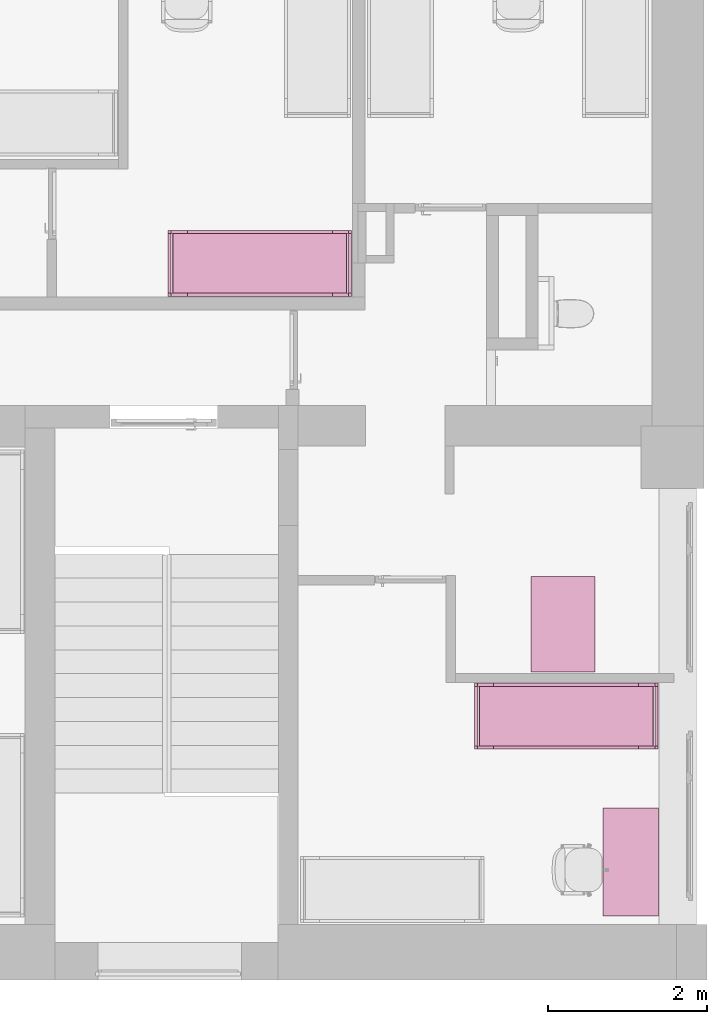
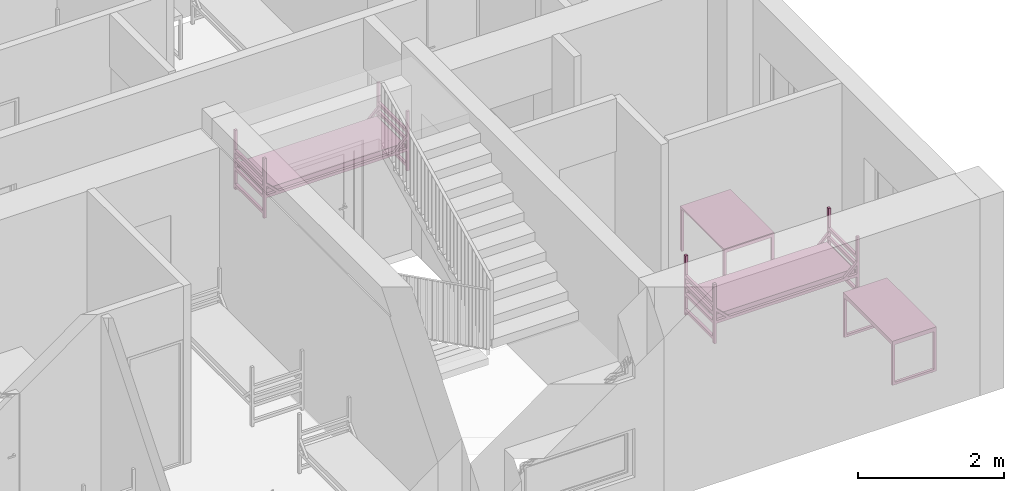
# One storey, part 45 of 48: 4 furnishings.
"""IFC2X3 building model written with IfcOpenShell, lengths in millimetres."""

from ifc_helpers import new_model, entity, si_unit, converted_unit, derived_unit, direction, frame, frame_2d, origin, origin_2d_with_axis, place, context, subcontext, project, spatial, polyline, circle_curve, parameter, trimmed, segment, composite_curve, rectangle, circle, outline, extrude, faceted_brep, source, transform, mapped, material, material_list, type_object, type_shapes, element, save


model = new_model("IFC2X3")

# Units and contexts
model_context = context("Model", 3, precision=0.01, world=origin(), true_north=direction((6.12303176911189e-17, 1.0)))
body_context = subcontext(model_context, "Body", "Model", "MODEL_VIEW")
ifc_project = project(units=[si_unit("LENGTHUNIT", "METRE", prefix="MILLI"), si_unit("AREAUNIT", "SQUARE_METRE"), si_unit("VOLUMEUNIT", "CUBIC_METRE"), converted_unit("PLANEANGLEUNIT", "DEGREE", entity("IfcRatioMeasure", 0.0174532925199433), si_unit("PLANEANGLEUNIT", "RADIAN"), dimensions=[0, 0, 0, 0, 0, 0, 0]), si_unit("MASSUNIT", "GRAM", prefix="KILO"), derived_unit("MASSDENSITYUNIT", [(si_unit("MASSUNIT", "GRAM", prefix="KILO"), 1), (si_unit("LENGTHUNIT", "METRE"), -3)]), si_unit("TIMEUNIT", "SECOND"), si_unit("FREQUENCYUNIT", "HERTZ"), si_unit("THERMODYNAMICTEMPERATUREUNIT", "DEGREE_CELSIUS"), derived_unit("THERMALTRANSMITTANCEUNIT", [(si_unit("MASSUNIT", "GRAM", prefix="KILO"), 1), (si_unit("THERMODYNAMICTEMPERATUREUNIT", "KELVIN"), -1), (si_unit("TIMEUNIT", "SECOND"), -3)]), derived_unit("VOLUMETRICFLOWRATEUNIT", [(si_unit("LENGTHUNIT", "METRE"), 3), (si_unit("TIMEUNIT", "SECOND"), -1)]), si_unit("ELECTRICCURRENTUNIT", "AMPERE"), si_unit("ELECTRICVOLTAGEUNIT", "VOLT"), si_unit("POWERUNIT", "WATT"), si_unit("FORCEUNIT", "NEWTON", prefix="KILO"), si_unit("ILLUMINANCEUNIT", "LUX"), si_unit("LUMINOUSFLUXUNIT", "LUMEN"), si_unit("LUMINOUSINTENSITYUNIT", "CANDELA"), derived_unit("USERDEFINED", [(si_unit("MASSUNIT", "GRAM", prefix="KILO"), -1), (si_unit("LENGTHUNIT", "METRE"), -2), (si_unit("TIMEUNIT", "SECOND"), 3), (si_unit("LUMINOUSFLUXUNIT", "LUMEN"), 1)]), derived_unit("LINEARVELOCITYUNIT", [(si_unit("LENGTHUNIT", "METRE"), 1), (si_unit("TIMEUNIT", "SECOND"), -1)]), si_unit("PRESSUREUNIT", "PASCAL"), derived_unit("USERDEFINED", [(si_unit("LENGTHUNIT", "METRE"), -2), (si_unit("MASSUNIT", "GRAM", prefix="KILO"), 1), (si_unit("TIMEUNIT", "SECOND"), -2)]), derived_unit("LINEARFORCEUNIT", [(si_unit("MASSUNIT", "GRAM", prefix="KILO"), 1), (si_unit("LENGTHUNIT", "METRE"), 1), (si_unit("TIMEUNIT", "SECOND"), -2), (si_unit("LENGTHUNIT", "METRE"), -1)]), derived_unit("PLANARFORCEUNIT", [(si_unit("MASSUNIT", "GRAM", prefix="KILO"), 1), (si_unit("LENGTHUNIT", "METRE"), 1), (si_unit("TIMEUNIT", "SECOND"), -2), (si_unit("LENGTHUNIT", "METRE"), -2)])], contexts=[model_context])

# Site, building, storey, space
site_placement = place(None, origin())
site = spatial("IfcSite", under=ifc_project, at=site_placement, Name="Default", CompositionType="ELEMENT")
building_placement = place(site_placement, origin())
building = spatial("IfcBuilding", under=site, at=building_placement, Name="SMA ARH", CompositionType="ELEMENT")
storey_placement = place(building_placement, frame((0.0, 0.0, 3300.0)))
storey = spatial("IfcBuildingStorey", under=building, at=storey_placement, Name="2 Korrus", CompositionType="ELEMENT", Elevation=3299.99999999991)
space_1_placement = place(storey_placement, origin())
space_1 = spatial("IfcSpace", under=storey, at=space_1_placement, Name="2-31", CompositionType="ELEMENT", InteriorOrExteriorSpace="INTERNAL")

# Furnishing
ifc_material_1 = material(Name="Madrats")
furniture_type_1 = type_object("IfcFurnitureType", Name="Kasarmu voodi ühekordne 2308x830:Kasarmu voodi ühekordne 2308x830", material=ifc_material_1)
shared_shape_1 = source(origin(), body_context, "Body", "SweptSolid", [
    extrude(rectangle(XDim=39.9999999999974, YDim=750.000000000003, at=frame_2d((-1.35003119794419e-13, -2.8421709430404e-14), x_axis=(1.0, 0.0))), frame((1.68638457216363, -1226.7969571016, 55.0), z_axis=(0.0, 0.0, 1.0), x_axis=(0.0, -1.0, 0.0)), (0.0, 0.0, 1.0), 49.9999999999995),
    extrude(rectangle(XDim=39.9999999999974, YDim=750.000000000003, at=frame_2d((-1.35003119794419e-13, -2.8421709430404e-14), x_axis=(1.0, 0.0))), frame((1.68638457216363, -1226.7969571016, 325.0), z_axis=(0.0, 0.0, 1.0), x_axis=(0.0, -1.0, 0.0)), (0.0, 0.0, 1.0), 49.9999999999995),
    extrude(rectangle(XDim=39.9999999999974, YDim=750.000000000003, at=frame_2d((-1.35003119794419e-13, -2.8421709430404e-14), x_axis=(1.0, 0.0))), frame((1.68638457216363, -1226.7969571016, 475.0), z_axis=(0.0, 0.0, 1.0), x_axis=(0.0, -1.0, 0.0)), (0.0, 0.0, 1.0), 49.9999999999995),
    extrude(rectangle(XDim=39.9999999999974, YDim=750.000000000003, at=frame_2d((-1.35003119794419e-13, -2.8421709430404e-14), x_axis=(1.0, 0.0))), frame((1.68638457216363, -1226.7969571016, 625.0), z_axis=(0.0, 0.0, 1.0), x_axis=(0.0, -1.0, 0.0)), (0.0, 0.0, 1.0), 50.0000000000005),
    extrude(rectangle(XDim=39.9999999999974, YDim=750.000000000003, at=frame_2d((1.35003119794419e-13, -2.8421709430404e-14), x_axis=(1.0, 0.0))), frame((1.68638457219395, 1041.2030428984, 55.0), z_axis=(0.0, 0.0, 1.0), x_axis=(0.0, -1.0, 0.0)), (0.0, 0.0, 1.0), 50.0000000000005),
    extrude(rectangle(XDim=39.9999999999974, YDim=750.000000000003, at=frame_2d((1.35003119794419e-13, -2.8421709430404e-14), x_axis=(1.0, 0.0))), frame((1.68638457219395, 1041.2030428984, 325.0), z_axis=(0.0, 0.0, 1.0), x_axis=(0.0, -1.0, 0.0)), (0.0, 0.0, 1.0), 50.0000000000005),
    extrude(rectangle(XDim=39.9999999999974, YDim=750.000000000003, at=frame_2d((1.35003119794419e-13, -2.8421709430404e-14), x_axis=(1.0, 0.0))), frame((1.68638457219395, 1041.2030428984, 475.0), z_axis=(0.0, 0.0, 1.0), x_axis=(0.0, -1.0, 0.0)), (0.0, 0.0, 1.0), 50.0000000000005),
    extrude(rectangle(XDim=39.9999999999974, YDim=750.000000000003, at=frame_2d((1.35003119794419e-13, -2.8421709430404e-14), x_axis=(1.0, 0.0))), frame((1.68638457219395, 1041.2030428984, 625.0), z_axis=(0.0, 0.0, 1.0), x_axis=(0.0, -1.0, 0.0)), (0.0, 0.0, 1.0), 49.9999999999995),
    extrude(outline(composite_curve([segment(trimmed(circle_curve(frame_2d((1085.0, -40.0), x_axis=(1.0, 0.0)), 10.0), [parameter(270.0)], [parameter(0.0)], True, "PARAMETER"), True, "CONTINUOUS"), segment(polyline([(1095.0, -40.0), (1095.0, 40.0)]), True, "CONTINUOUS"), segment(trimmed(circle_curve(frame_2d((1085.0, 40.0), x_axis=(1.0, 0.0)), 10.0), [parameter(0.0)], [parameter(90.0000000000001)], True, "PARAMETER"), True, "CONTINUOUS"), segment(polyline([(1085.0, 50.0), (-1085.0, 50.0)]), True, "CONTINUOUS"), segment(trimmed(circle_curve(frame_2d((-1085.0, 40.0), x_axis=(1.0, 0.0)), 10.0), [parameter(90.0000000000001)], [parameter(180.0)], True, "PARAMETER"), True, "CONTINUOUS"), segment(polyline([(-1095.0, 40.0), (-1095.0, -40.0)]), True, "CONTINUOUS"), segment(trimmed(circle_curve(frame_2d((-1085.0, -40.0), x_axis=(1.0, 0.0)), 10.0), [parameter(180.0)], [parameter(270.0)], True, "PARAMETER"), True, "CONTINUOUS"), segment(polyline([(-1085.0, -50.0), (1085.0, -50.0)]), True, "CONTINUOUS")], self_intersect=False)), frame((-373.313615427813, -92.7969571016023, 405.0), z_axis=(1.0, 0.0, 0.0), x_axis=(0.0, -1.0, 0.0)), (0.0, 0.0, 1.0), 750.000000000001),
    extrude(outline(polyline([(-1114.0, -100.0), (1114.0, -100.0), (1114.0, -50.0), (961.59199141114, -50.0), (1114.0, 100.0), (1114.0, 150.0), (910.789321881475, -50.0), (-910.789321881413, -50.0), (-1114.0, 150.0), (-1114.0, 100.0), (-961.591991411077, -50.0), (-1114.0, -50.0), (-1114.0, -100.0)])), frame((-413.313615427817, -92.7969571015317, 430.0), z_axis=(1.0, 0.0, 0.0), x_axis=(0.0, 1.0, 0.0)), (0.0, 0.0, 1.0), 39.9999999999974),
    extrude(outline(polyline([(-1114.0, -100.0), (1114.0, -100.0), (1114.0, -50.0), (961.591991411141, -50.0), (1114.0, 100.0), (1114.0, 150.0), (910.789321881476, -50.0), (-910.789321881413, -50.0), (-1114.0, 150.0), (-1114.0, 100.0), (-961.591991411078, -50.0), (-1114.0, -50.0), (-1114.0, -100.0)])), frame((376.686384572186, -92.796957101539, 430.0), z_axis=(1.0, 0.0, 0.0), x_axis=(0.0, 1.0, 0.0)), (0.0, 0.0, 1.0), 39.9999999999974),
    extrude(rectangle(XDim=39.9999999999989, YDim=39.9999999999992, at=frame_2d((-6.75015598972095e-14, 0.0), x_axis=(1.0, 0.0))), frame((396.686384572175, -1226.79695710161, 0.0), z_axis=(0.0, 0.0, 1.0), x_axis=(0.0, 1.0, 0.0)), (0.0, 0.0, 1.0), 995.0),
    extrude(rectangle(XDim=39.9999999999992, YDim=39.9999999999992, at=frame_2d((-1.35003119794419e-13, 0.0), x_axis=(1.0, 0.0))), frame((396.686384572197, 1041.20304289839, 0.0), z_axis=(0.0, 0.0, 1.0), x_axis=(0.0, 1.0, 0.0)), (0.0, 0.0, 1.0), 995.0),
    extrude(rectangle(XDim=40.0000000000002, YDim=39.9999999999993, at=frame_2d((-1.35003119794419e-13, 0.0), x_axis=(1.0, 0.0))), frame((-393.313615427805, 1041.2030428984, 0.0), z_axis=(0.0, 0.0, 1.0), x_axis=(0.0, 1.0, 0.0)), (0.0, 0.0, 1.0), 995.0),
    extrude(rectangle(XDim=39.9999999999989, YDim=39.9999999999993, at=frame_2d((-6.75015598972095e-14, 0.0), x_axis=(1.0, 0.0))), frame((-393.313615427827, -1226.7969571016, 0.0), z_axis=(0.0, 0.0, 1.0), x_axis=(0.0, 1.0, 0.0)), (0.0, 0.0, 1.0), 995.0),
])
type_shapes(furniture_type_1, [shared_shape_1])
furnishing_1_placement = place(space_1_placement, frame((33290.0, 8305.5014052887, 0.0), z_axis=(0.0, 0.0, 1.0), x_axis=(0.0, 1.0, 0.0)))
element("IfcFurnishingElement", 1, at=furnishing_1_placement, inside=space_1, type_object=furniture_type_1, material=ifc_material_1, Name="Kasarmu voodi ühekordne 2308x830:Kasarmu voodi ühekordne 2308x830", ObjectType="Kasarmu voodi ühekordne 2308x830:Kasarmu voodi ühekordne 2308x830", context=body_context, shape_type="MappedRepresentation", body=[
    mapped(shared_shape_1, transform((0.0, 0.0, 0.0), scale=1.0)),
])

# Space
space_2_placement = place(storey_placement, origin())
space_2 = spatial("IfcSpace", under=storey, at=space_2_placement, Name="2-1", CompositionType="ELEMENT", InteriorOrExteriorSpace="INTERNAL")

# Furnishings
furnishing_2_placement = place(space_2_placement, frame((37140.0, 2614.0, 0.0), z_axis=(0.0, 0.0, 1.0), x_axis=(0.0, 1.0, 0.0)))
element("IfcFurnishingElement", 2, at=furnishing_2_placement, inside=space_2, type_object=furniture_type_1, material=ifc_material_1, Name="Kasarmu voodi ühekordne 2308x830:Kasarmu voodi ühekordne 2308x830", ObjectType="Kasarmu voodi ühekordne 2308x830:Kasarmu voodi ühekordne 2308x830", context=body_context, shape_type="MappedRepresentation", body=[
    mapped(shared_shape_1, transform((0.0, 0.0, 0.0), scale=1.0)),
])
ifc_material_2 = material(Name="<Unnamed>")
ifc_material_list_1 = material_list([ifc_material_2, ifc_material_2])
furniture_type_2 = type_object("IfcFurnitureType", Name="kirjutuslaud 1360x700mm:kirjutuslaud 1360x700mm", material=ifc_material_list_1)
shared_shape_2 = source(origin(), body_context, "Body", "Brep", [
    faceted_brep([(680.0, -350.0, 720.0), (680.0, 350.0, 720.0), (680.0, 350.0, 750.0), (680.0, -350.0, 750.0), (-680.0, -350.0, 720.0), (-680.0, -350.0, 750.0), (-680.0, 350.0, 750.0), (-680.0, 350.0, 720.0)], [[[0, 1, 2, 3]], [[4, 5, 6, 7]], [[1, 0, 4, 7]], [[2, 1, 7, 6]], [[3, 2, 6, 5]], [[0, 3, 5, 4]]]),
    faceted_brep([(-640.0, -310.0, 680.0), (-640.0, 310.0, 680.0), (-640.0, 310.0, 720.0), (-640.0, -310.0, 720.0), (-680.0, -350.0, 720.0), (-680.0, 350.0, 720.0), (-680.0, 350.0, 10.0), (-680.0, -350.0, 10.0), (-680.0, 310.0, 680.0), (-680.0, -310.0, 680.0), (-680.0, -310.0, 50.0), (-680.0, 310.0, 50.0), (-640.0, -350.0, 10.0), (-640.0, -350.0, 680.0), (640.0, -350.0, 680.0), (640.0, -350.0, 10.0), (680.0, -350.0, 10.0), (680.0, -350.0, 720.0), (-640.0, 350.0, 10.0), (680.0, 350.0, 720.0), (680.0, 350.0, 10.0), (640.0, 350.0, 10.0), (640.0, 350.0, 680.0), (-640.0, 350.0, 680.0), (640.0, 310.0, 720.0), (640.0, -310.0, 720.0), (-640.0, 310.0, 50.0), (-640.0, -310.0, 50.0), (640.0, -310.0, 680.0), (640.0, 310.0, 680.0), (680.0, 310.0, 680.0), (680.0, 310.0, 50.0), (680.0, -310.0, 50.0), (680.0, -310.0, 680.0), (640.0, -310.0, 50.0), (640.0, 310.0, 50.0)], [[[0, 1, 2, 3]], [[4, 5, 6, 7], [8, 9, 10, 11]], [[4, 7, 12, 13, 14, 15, 16, 17]], [[18, 12, 7, 6]], [[6, 5, 19, 20, 21, 22, 23, 18]], [[19, 5, 4, 17], [2, 24, 25, 3]], [[26, 1, 8, 11]], [[27, 26, 11, 10]], [[0, 27, 10, 9]], [[1, 0, 9, 8]], [[14, 13, 0, 28]], [[24, 2, 1, 29]], [[3, 25, 28, 0]], [[17, 16, 20, 19], [30, 31, 32, 33]], [[21, 15, 14, 28, 34, 35, 29, 22]], [[20, 16, 15, 21]], [[31, 30, 29, 35]], [[32, 31, 35, 34]], [[33, 32, 34, 28]], [[30, 33, 28, 29]], [[29, 28, 25, 24]], [[29, 1, 23, 22]], [[12, 18, 23, 1, 26, 27, 0, 13]]]),
    faceted_brep([(-663.729456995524, -270.466136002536, 0.0), (-659.847171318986, -269.955023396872, 0.0), (-655.964885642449, -270.466136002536, 0.0), (-652.347171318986, -271.964642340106, 0.0), (-649.240569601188, -274.348421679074, 0.0), (-646.85679026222, -277.455023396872, 0.0), (-645.35828392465, -281.072737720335, 0.0), (-644.847171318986, -284.955023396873, 0.0), (-645.35828392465, -288.83730907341, 0.0), (-646.85679026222, -292.455023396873, 0.0), (-649.240569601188, -295.561625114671, 0.0), (-652.347171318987, -297.945404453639, 0.0), (-655.964885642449, -299.443910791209, 0.0), (-659.847171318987, -299.955023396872, 0.0), (-663.729456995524, -299.443910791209, 0.0), (-667.347171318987, -297.945404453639, 0.0), (-670.453773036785, -295.561625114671, 0.0), (-672.837552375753, -292.455023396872, 0.0), (-674.336058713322, -288.83730907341, 0.0), (-674.847171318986, -284.955023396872, 0.0), (-674.336058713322, -281.072737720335, 0.0), (-672.837552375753, -277.455023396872, 0.0), (-670.453773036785, -274.348421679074, 0.0), (-667.347171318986, -271.964642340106, 0.0), (-655.964885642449, -299.443910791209, 10.0), (-652.347171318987, -297.945404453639, 10.0), (-649.240569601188, -295.561625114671, 10.0), (-646.85679026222, -292.455023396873, 10.0), (-645.35828392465, -288.83730907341, 10.0), (-644.847171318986, -284.955023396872, 10.0), (-645.35828392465, -281.072737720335, 10.0), (-646.85679026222, -277.455023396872, 10.0), (-649.240569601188, -274.348421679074, 10.0), (-652.347171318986, -271.964642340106, 10.0), (-655.964885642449, -270.466136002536, 10.0), (-659.847171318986, -269.955023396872, 10.0), (-663.729456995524, -270.466136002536, 10.0), (-667.347171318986, -271.964642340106, 10.0), (-670.453773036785, -274.348421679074, 10.0), (-672.837552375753, -277.455023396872, 10.0), (-674.336058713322, -281.072737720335, 10.0), (-674.847171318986, -284.955023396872, 10.0), (-674.336058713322, -288.83730907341, 10.0), (-672.837552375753, -292.455023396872, 10.0), (-670.453773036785, -295.561625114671, 10.0), (-667.347171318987, -297.945404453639, 10.0), (-663.729456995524, -299.443910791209, 10.0), (-659.847171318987, -299.955023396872, 10.0)], [[[0, 1, 2, 3, 4, 5, 6, 7, 8, 9, 10, 11, 12, 13, 14, 15, 16, 17, 18, 19, 20, 21, 22, 23]], [[24, 25, 26, 27, 28, 29, 30, 31, 32, 33, 34, 35, 36, 37, 38, 39, 40, 41, 42, 43, 44, 45, 46, 47]], [[18, 42, 41, 19]], [[17, 43, 42, 18]], [[45, 44, 16, 15]], [[17, 16, 44, 43]], [[46, 45, 15, 14]], [[47, 46, 14, 13]], [[12, 24, 47, 13]], [[11, 25, 24, 12]], [[27, 26, 10, 9]], [[11, 10, 26, 25]], [[28, 27, 9, 8]], [[29, 28, 8, 7]], [[6, 30, 29, 7]], [[5, 31, 30, 6]], [[33, 32, 4, 3]], [[5, 4, 32, 31]], [[34, 33, 3, 2]], [[35, 34, 2, 1]], [[0, 36, 35, 1]], [[23, 37, 36, 0]], [[39, 38, 22, 21]], [[23, 22, 38, 37]], [[40, 39, 21, 20]], [[41, 40, 20, 19]]]),
    faceted_brep([(-655.964885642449, 270.466136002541, 10.0), (-652.347171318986, 271.964642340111, 10.0), (-649.240569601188, 274.348421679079, 10.0), (-646.85679026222, 277.455023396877, 10.0), (-645.35828392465, 281.07273772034, 10.0), (-644.847171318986, 284.955023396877, 10.0), (-645.35828392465, 288.837309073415, 10.0), (-646.85679026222, 292.455023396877, 10.0), (-649.240569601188, 295.561625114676, 10.0), (-652.347171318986, 297.945404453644, 10.0), (-655.964885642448, 299.443910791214, 10.0), (-659.847171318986, 299.955023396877, 10.0), (-663.729456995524, 299.443910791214, 10.0), (-667.347171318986, 297.945404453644, 10.0), (-670.453773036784, 295.561625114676, 10.0), (-672.837552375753, 292.455023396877, 10.0), (-674.336058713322, 288.837309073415, 10.0), (-674.847171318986, 284.955023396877, 10.0), (-674.336058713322, 281.07273772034, 10.0), (-672.837552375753, 277.455023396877, 10.0), (-670.453773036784, 274.348421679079, 10.0), (-667.347171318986, 271.964642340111, 10.0), (-663.729456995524, 270.466136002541, 10.0), (-659.847171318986, 269.955023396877, 10.0), (-655.964885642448, 299.443910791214, 0.0), (-652.347171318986, 297.945404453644, 0.0), (-649.240569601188, 295.561625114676, 0.0), (-646.85679026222, 292.455023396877, 0.0), (-645.35828392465, 288.837309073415, 0.0), (-644.847171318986, 284.955023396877, 0.0), (-645.35828392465, 281.07273772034, 0.0), (-646.85679026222, 277.455023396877, 0.0), (-649.240569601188, 274.348421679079, 0.0), (-652.347171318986, 271.964642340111, 0.0), (-655.964885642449, 270.466136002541, 0.0), (-659.847171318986, 269.955023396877, 0.0), (-663.729456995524, 270.466136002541, 0.0), (-667.347171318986, 271.964642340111, 0.0), (-670.453773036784, 274.348421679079, 0.0), (-672.837552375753, 277.455023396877, 0.0), (-674.336058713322, 281.07273772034, 0.0), (-674.847171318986, 284.955023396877, 0.0), (-674.336058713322, 288.837309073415, 0.0), (-672.837552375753, 292.455023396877, 0.0), (-670.453773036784, 295.561625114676, 0.0), (-667.347171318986, 297.945404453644, 0.0), (-663.729456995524, 299.443910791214, 0.0), (-659.847171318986, 299.955023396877, 0.0)], [[[0, 1, 2, 3, 4, 5, 6, 7, 8, 9, 10, 11, 12, 13, 14, 15, 16, 17, 18, 19, 20, 21, 22, 23]], [[24, 25, 26, 27, 28, 29, 30, 31, 32, 33, 34, 35, 36, 37, 38, 39, 40, 41, 42, 43, 44, 45, 46, 47]], [[40, 18, 17, 41]], [[39, 19, 18, 40]], [[21, 20, 38, 37]], [[39, 38, 20, 19]], [[22, 21, 37, 36]], [[23, 22, 36, 35]], [[34, 0, 23, 35]], [[33, 1, 0, 34]], [[3, 2, 32, 31]], [[33, 32, 2, 1]], [[4, 3, 31, 30]], [[5, 4, 30, 29]], [[28, 6, 5, 29]], [[27, 7, 6, 28]], [[9, 8, 26, 25]], [[27, 26, 8, 7]], [[10, 9, 25, 24]], [[11, 10, 24, 47]], [[46, 12, 11, 47]], [[45, 13, 12, 46]], [[15, 14, 44, 43]], [[45, 44, 14, 13]], [[16, 15, 43, 42]], [[17, 16, 42, 41]]]),
    faceted_brep([(656.270543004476, -270.466136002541, 0.0), (660.152828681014, -269.955023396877, 0.0), (664.035114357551, -270.466136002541, 0.0), (667.652828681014, -271.96464234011, 0.0), (670.759430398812, -274.348421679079, 0.0), (673.14320973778, -277.455023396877, 0.0), (674.64171607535, -281.072737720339, 0.0), (675.152828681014, -284.955023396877, 0.0), (674.64171607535, -288.837309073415, 0.0), (673.14320973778, -292.455023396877, 0.0), (670.759430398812, -295.561625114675, 0.0), (667.652828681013, -297.945404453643, 0.0), (664.035114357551, -299.443910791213, 0.0), (660.152828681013, -299.955023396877, 0.0), (656.270543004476, -299.443910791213, 0.0), (652.652828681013, -297.945404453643, 0.0), (649.546226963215, -295.561625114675, 0.0), (647.162447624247, -292.455023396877, 0.0), (645.663941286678, -288.837309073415, 0.0), (645.152828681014, -284.955023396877, 0.0), (645.663941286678, -281.072737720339, 0.0), (647.162447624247, -277.455023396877, 0.0), (649.546226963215, -274.348421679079, 0.0), (652.652828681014, -271.96464234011, 0.0), (664.035114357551, -299.443910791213, 10.0), (667.652828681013, -297.945404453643, 10.0), (670.759430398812, -295.561625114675, 10.0), (673.14320973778, -292.455023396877, 10.0), (674.64171607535, -288.837309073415, 10.0), (675.152828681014, -284.955023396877, 10.0), (674.64171607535, -281.072737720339, 10.0), (673.14320973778, -277.455023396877, 10.0), (670.759430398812, -274.348421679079, 10.0), (667.652828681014, -271.96464234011, 10.0), (664.035114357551, -270.466136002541, 10.0), (660.152828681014, -269.955023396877, 10.0), (656.270543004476, -270.466136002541, 10.0), (652.652828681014, -271.96464234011, 10.0), (649.546226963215, -274.348421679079, 10.0), (647.162447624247, -277.455023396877, 10.0), (645.663941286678, -281.072737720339, 10.0), (645.152828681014, -284.955023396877, 10.0), (645.663941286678, -288.837309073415, 10.0), (647.162447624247, -292.455023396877, 10.0), (649.546226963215, -295.561625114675, 10.0), (652.652828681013, -297.945404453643, 10.0), (656.270543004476, -299.443910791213, 10.0), (660.152828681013, -299.955023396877, 10.0)], [[[0, 1, 2, 3, 4, 5, 6, 7, 8, 9, 10, 11, 12, 13, 14, 15, 16, 17, 18, 19, 20, 21, 22, 23]], [[24, 25, 26, 27, 28, 29, 30, 31, 32, 33, 34, 35, 36, 37, 38, 39, 40, 41, 42, 43, 44, 45, 46, 47]], [[18, 42, 41, 19]], [[17, 43, 42, 18]], [[45, 44, 16, 15]], [[17, 16, 44, 43]], [[46, 45, 15, 14]], [[47, 46, 14, 13]], [[12, 24, 47, 13]], [[11, 25, 24, 12]], [[27, 26, 10, 9]], [[11, 10, 26, 25]], [[28, 27, 9, 8]], [[29, 28, 8, 7]], [[6, 30, 29, 7]], [[5, 31, 30, 6]], [[33, 32, 4, 3]], [[5, 4, 32, 31]], [[34, 33, 3, 2]], [[35, 34, 2, 1]], [[0, 36, 35, 1]], [[23, 37, 36, 0]], [[39, 38, 22, 21]], [[23, 22, 38, 37]], [[40, 39, 21, 20]], [[41, 40, 20, 19]]]),
    faceted_brep([(664.035114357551, 270.466136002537, 10.0), (667.652828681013, 271.964642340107, 10.0), (670.759430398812, 274.348421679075, 10.0), (673.14320973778, 277.455023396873, 10.0), (674.64171607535, 281.072737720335, 10.0), (675.152828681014, 284.955023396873, 10.0), (674.64171607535, 288.837309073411, 10.0), (673.14320973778, 292.455023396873, 10.0), (670.759430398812, 295.561625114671, 10.0), (667.652828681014, 297.94540445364, 10.0), (664.035114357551, 299.443910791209, 10.0), (660.152828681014, 299.955023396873, 10.0), (656.270543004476, 299.443910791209, 10.0), (652.652828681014, 297.94540445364, 10.0), (649.546226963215, 295.561625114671, 10.0), (647.162447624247, 292.455023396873, 10.0), (645.663941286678, 288.837309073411, 10.0), (645.152828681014, 284.955023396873, 10.0), (645.663941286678, 281.072737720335, 10.0), (647.162447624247, 277.455023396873, 10.0), (649.546226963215, 274.348421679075, 10.0), (652.652828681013, 271.964642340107, 10.0), (656.270543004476, 270.466136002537, 10.0), (660.152828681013, 269.955023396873, 10.0), (664.035114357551, 299.443910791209, 0.0), (667.652828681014, 297.94540445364, 0.0), (670.759430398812, 295.561625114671, 0.0), (673.14320973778, 292.455023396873, 0.0), (674.64171607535, 288.837309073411, 0.0), (675.152828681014, 284.955023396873, 0.0), (674.64171607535, 281.072737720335, 0.0), (673.14320973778, 277.455023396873, 0.0), (670.759430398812, 274.348421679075, 0.0), (667.652828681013, 271.964642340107, 0.0), (664.035114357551, 270.466136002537, 0.0), (660.152828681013, 269.955023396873, 0.0), (656.270543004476, 270.466136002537, 0.0), (652.652828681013, 271.964642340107, 0.0), (649.546226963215, 274.348421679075, 0.0), (647.162447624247, 277.455023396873, 0.0), (645.663941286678, 281.072737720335, 0.0), (645.152828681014, 284.955023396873, 0.0), (645.663941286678, 288.837309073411, 0.0), (647.162447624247, 292.455023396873, 0.0), (649.546226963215, 295.561625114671, 0.0), (652.652828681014, 297.94540445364, 0.0), (656.270543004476, 299.443910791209, 0.0), (660.152828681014, 299.955023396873, 0.0)], [[[0, 1, 2, 3, 4, 5, 6, 7, 8, 9, 10, 11, 12, 13, 14, 15, 16, 17, 18, 19, 20, 21, 22, 23]], [[24, 25, 26, 27, 28, 29, 30, 31, 32, 33, 34, 35, 36, 37, 38, 39, 40, 41, 42, 43, 44, 45, 46, 47]], [[40, 18, 17, 41]], [[39, 19, 18, 40]], [[21, 20, 38, 37]], [[39, 38, 20, 19]], [[22, 21, 37, 36]], [[23, 22, 36, 35]], [[34, 0, 23, 35]], [[33, 1, 0, 34]], [[3, 2, 32, 31]], [[33, 32, 2, 1]], [[4, 3, 31, 30]], [[5, 4, 30, 29]], [[28, 6, 5, 29]], [[27, 7, 6, 28]], [[9, 8, 26, 25]], [[27, 26, 8, 7]], [[10, 9, 25, 24]], [[11, 10, 24, 47]], [[46, 12, 11, 47]], [[45, 13, 12, 46]], [[15, 14, 44, 43]], [[45, 44, 14, 13]], [[16, 15, 43, 42]], [[17, 16, 42, 41]]]),
])
type_shapes(furniture_type_2, [shared_shape_2])
furnishing_3_placement = place(space_2_placement, frame((38045.0, 783.180198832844, 0.0), z_axis=(0.0, 0.0, 1.0), x_axis=(0.0, 1.0, 0.0)))
element("IfcFurnishingElement", 3, at=furnishing_3_placement, inside=space_2, type_object=furniture_type_2, Name="kirjutuslaud 1360x700mm:kirjutuslaud 1360x700mm", ObjectType="kirjutuslaud 1360x700mm:kirjutuslaud 1360x700mm", context=body_context, shape_type="MappedRepresentation", body=[
    mapped(shared_shape_2, transform((0.0, 0.0, 0.0), scale=1.0)),
])

# Space
space_3_placement = place(storey_placement, origin())
space_3 = spatial("IfcSpace", under=storey, at=space_3_placement, Name="2-3", CompositionType="ELEMENT", InteriorOrExteriorSpace="INTERNAL")

# Furnishing
ifc_material_3 = material(Name="Metal - Stud Layer")
ifc_material_list_2 = material_list([ifc_material_3, ifc_material_2])
furniture_type_3 = type_object("IfcFurnitureType", Name="laud_1200x800:laud_1200x800", material=ifc_material_list_2)
shared_shape_3 = source(origin(), body_context, "Body", "SweptSolid", [
    extrude(rectangle(XDim=800.0, YDim=1200.0, at=origin_2d_with_axis()), frame((-150.0, 550.0, 720.0), z_axis=(0.0, 0.0, 1.0), x_axis=(-1.0, 0.0, 0.0)), (0.0, 0.0, 1.0), 29.9999999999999),
    extrude(outline(polyline([(-400.0, -365.0), (400.0, -365.0), (400.0, 345.0), (360.0, 345.0), (360.0, -325.0), (-360.0, -325.0), (-360.0, 345.0), (-400.0, 345.0), (-400.0, -365.0)])), frame((-150.0, -50.0, 355.0), z_axis=(0.0, 1.0, 0.0), x_axis=(1.0, 0.0, 0.0)), (0.0, 0.0, 1.0), 40.0000000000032),
    extrude(outline(polyline([(-400.0, -365.0), (400.0, -365.0), (400.0, 345.0), (360.0, 345.0), (360.0, -325.0), (-360.0, -325.0), (-360.0, 345.0), (-400.0, 345.0), (-400.0, -365.0)])), frame((-150.0, 1110.0, 355.0), z_axis=(0.0, 1.0, 0.0), x_axis=(1.0, 0.0, 0.0)), (0.0, 0.0, 1.0), 40.0000000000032),
    extrude(circle(Radius=15.0, at=frame_2d((0.0, 5.07593966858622e-14), x_axis=(1.0, 0.0))), frame((-529.847171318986, -29.9550233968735, 0.0)), (0.0, 0.0, 1.0), 10.0),
    extrude(circle(Radius=15.0, at=origin_2d_with_axis()), frame((-529.847171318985, 1129.95502339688, 0.0)), (0.0, 0.0, 1.0), 10.0),
    extrude(circle(Radius=15.0, at=origin_2d_with_axis()), frame((230.152828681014, -29.9550233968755, 0.0)), (0.0, 0.0, 1.0), 10.0),
    extrude(circle(Radius=15.0, at=origin_2d_with_axis()), frame((230.152828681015, 1129.95502339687, 0.0)), (0.0, 0.0, 1.0), 10.0),
])
type_shapes(furniture_type_3, [shared_shape_3])
furnishing_4_placement = place(space_3_placement, frame((37343.2995004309, 3220.49999999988, 0.0)))
element("IfcFurnishingElement", 4, at=furnishing_4_placement, inside=space_3, type_object=furniture_type_3, material=ifc_material_3, Name="laud_1200x800:laud_1200x800", ObjectType="laud_1200x800:laud_1200x800", context=body_context, shape_type="MappedRepresentation", body=[
    mapped(shared_shape_3, transform((0.0, 0.0, 0.0), scale=1.0)),
])

save(model, "model.ifc")
